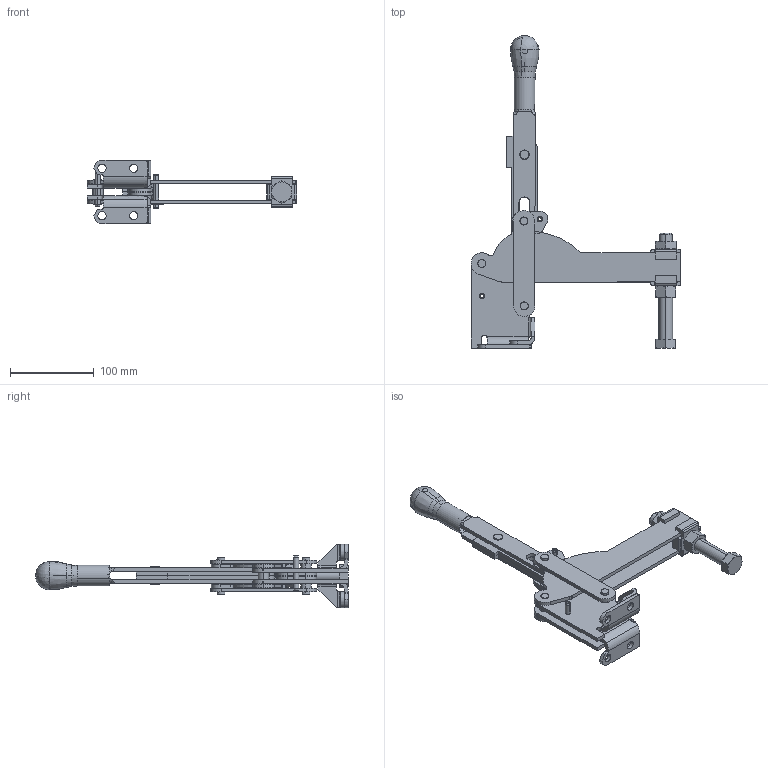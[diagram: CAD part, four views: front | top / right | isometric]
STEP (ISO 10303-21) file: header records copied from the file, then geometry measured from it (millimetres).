
FILE_DESCRIPTION((''),'2;1');
FILE_NAME('C:\1a1-lapeer-mfg\v1200\step\CAV-1200.stp','2006-02-28T16:52:26',(''),(''),'Autodesk Inventor 9','Autodesk Inventor 9','');
FILE_SCHEMA(('CONFIG_CONTROL_DESIGN'));
Length unit declared in the file: inch
Products named in the file (21): CAV-1200; 120009-L; 120009-R; 150013; 150016; 150021; 150025; 150018; 121001; 130013; 102016; N-470020; 170020; 170021-CT; 170012-CT; 171012; 180004; 150072; 110002-RL; 100008; 100013
Assembly tree (30 placements, depth 3):
  CAV-1200
    120009-L
    120009-R
    150013
    150016  x2
    150021  x2
    150025
    150018  x2
    121001  x2
    130013  x2
    102016
    N-470020
      170020
      170021-CT
      170012-CT
      171012  x2
    180004  x2
    150072
    110002-RL  x2
    100008  x2
    100013  x2
Bounding box: 250.83 x 374.34 x 75.84 mm (x, y, z)
Volume: 404547.7 mm3; surface area: 219744.8 mm2
Topology: 29 solids, 29 shells, 722 faces, 1850 edges, 1190 vertices
Faces by surface type: cylinder 291, plane 233, bspline 112, cone 70, sphere 16
Entity records: 19893 total; most frequent: CARTESIAN_POINT 4661, DIRECTION 2671, ORIENTED_EDGE 2528, EDGE_CURVE 1264, AXIS2_PLACEMENT_3D 1047, VERTEX_POINT 813, CIRCLE 591, VECTOR 577
